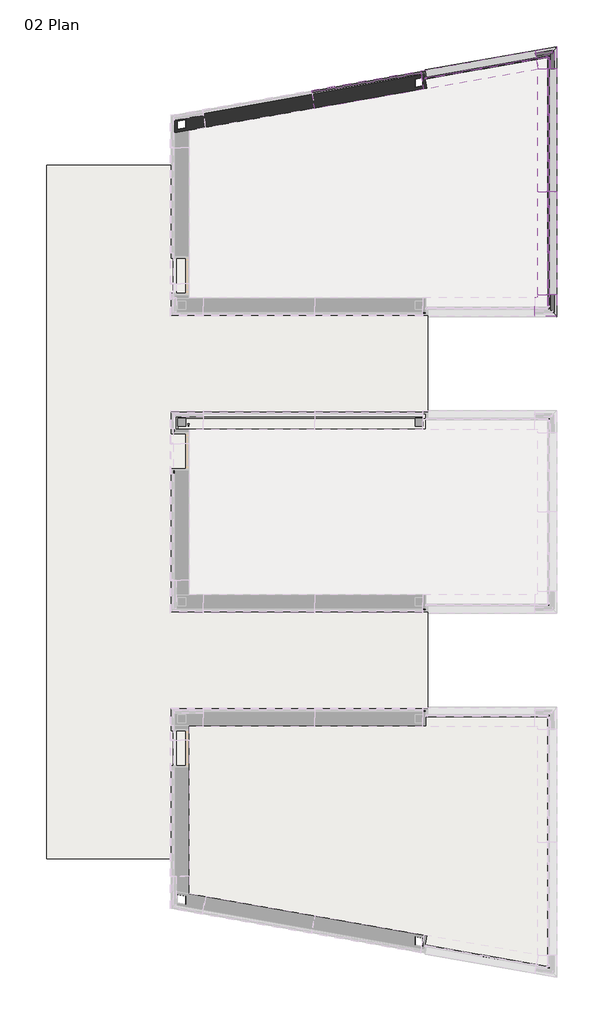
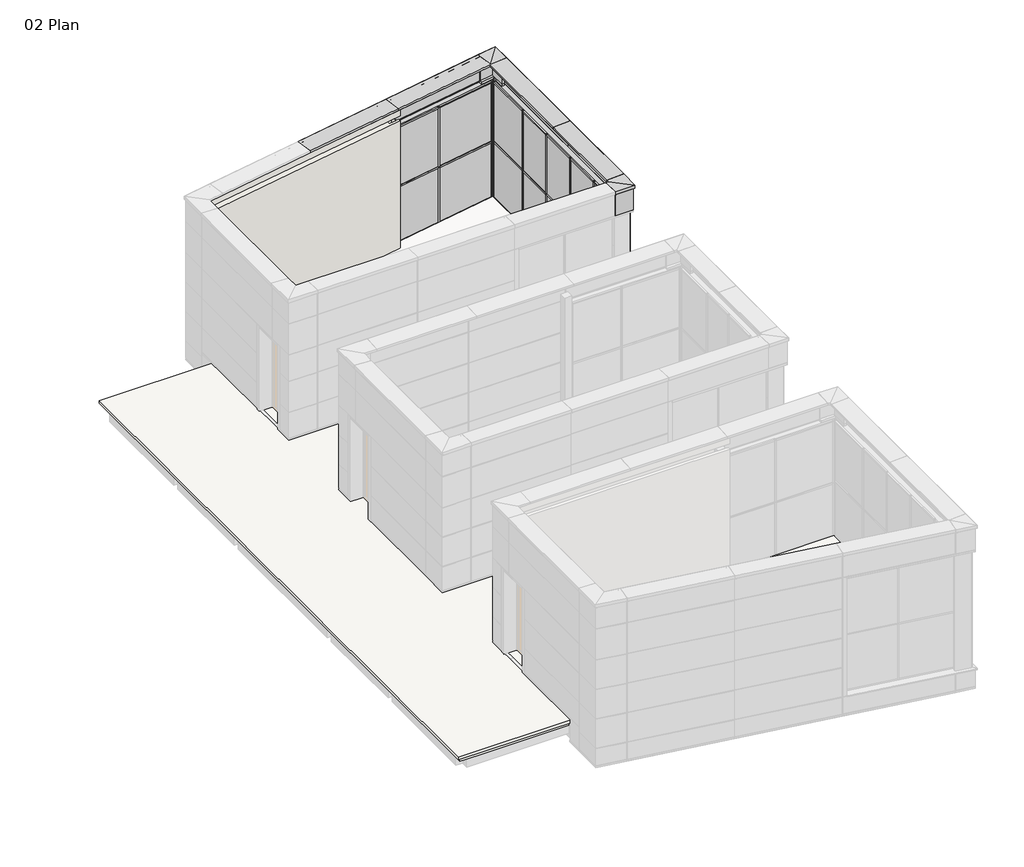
# One storey, part 5 of 6: 40 plates, 36 members, 3 slabs, 1 wall.
"""IFC4 building model written with IfcOpenShell, lengths in millimetres."""

from ifc_helpers import new_model, si_unit, origin, place, context, project, spatial, faceted_brep, transform, mapped, element, save
from components import rectangular_mullion_f6f2cbce, rectangular_mullion_14e84c0c, rectangular_mullion_0d59ba85, rectangular_mullion_ff0ddd38, rectangular_mullion_a9aae7de, rectangular_mullion_1928c3e6, rectangular_mullion_aa7ad885, rectangular_mullion_99b38e0a, rectangular_mullion_a15ee0f8, rectangular_mullion_18d90422, rectangular_mullion_423c9335, rectangular_mullion_82dbb10d, rectangular_mullion_77c6e5ac, rectangular_mullion_c50f3822, rectangular_mullion_eea76750, rectangular_mullion_2e5d74a0, rectangular_mullion_f93325dd, rectangular_mullion_3ef18441, plate_e5f96406, plate_ab3ce5dd, plate_11fb3f57, plate_91b26778, plate_d0c6d3e6, plate_29d679cd, plate_2e54694b, plate_18e4d27f, plate_6c13a71c, plate_abbbe2c7, plate_05e8105e, plate_3b69b3cc, plate_c7e8787b, plate_6bc7ffaa, plate_2372c1a4, plate_de9454b3, empty_system_panel_empty_568ba75f, empty_system_panel_empty_b9b0326a, empty_system_panel_empty_5409ad96, empty_system_panel_empty_42881ea0, empty_system_panel_empty_34ae9014, empty_system_panel_empty_b3b2cc3c, system_panel_d843c5f9, system_panel_27d48a78, system_panel_5d7f3ae3, system_panel_812bae4d, system_panel_4c336963, system_panel_b9692cb7, system_panel_b88e8618, system_panel_5da723c7, system_panel_08dd8473, system_panel_7ef738d5

model = new_model("IFC4")

# Units and contexts
model_context = context("Model", 3, world=origin())
ifc_project = project(units=[si_unit("LENGTHUNIT", "METRE", prefix="MILLI")], contexts=[model_context])

# Site, building, storey
site = spatial("IfcSite", under=ifc_project)
building = spatial("IfcBuilding", under=site)
storey = spatial("IfcBuildingStorey", under=building, Name="02 Plan", Elevation=0.0)

# Members
placement = place(None, origin())
rectangular_mullion_shape = rectangular_mullion_f6f2cbce(model_context)
element("IfcMember", 1, ObjectType="Rectangular Mullion : Mullion_Curtain Wall_Generic Showcase_50x50mm", at=placement, inside=storey, context=model_context, shape_type="MappedRepresentation", body=[
    mapped(rectangular_mullion_shape, transform((8000.6615063, 14550.3829712, -100.0), x_axis=(0.0, 1.0, 0.0), y_axis=(1.0, 0.0, 0.0), z_axis=(0.0, 0.0, -1.0))),
])
element("IfcMember", 2, ObjectType="Rectangular Mullion : Mullion_Curtain Wall_Generic Showcase_50x50mm", at=placement, inside=storey, context=model_context, shape_type="MappedRepresentation", body=[
    mapped(rectangular_mullion_shape, transform((4018.0263241, 13907.7246139, -100.0), x_axis=(-0.9848077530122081, -0.17364817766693, 0.0), y_axis=(-0.17364817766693, 0.9848077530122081, 0.0), z_axis=(0.0, 0.0, -1.0))),
])
element("IfcMember", 3, ObjectType="Rectangular Mullion : Mullion_Curtain Wall_Generic Showcase_50x50mm", at=placement, inside=storey, context=model_context, shape_type="MappedRepresentation", body=[
    mapped(rectangular_mullion_shape, transform((7941.9790974, 14599.6233588, 2075.0), x_axis=(0.9848077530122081, 0.17364817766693, 0.0), y_axis=(-0.17364817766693, 0.9848077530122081, 0.0), z_axis=(0.0, 0.0, 1.0))),
])
rectangular_mullion_2_shape = rectangular_mullion_14e84c0c(model_context)
element("IfcMember", 4, ObjectType="Rectangular Mullion : Mullion_Curtain Wall_Generic Showcase_50x50mm", at=placement, inside=storey, context=model_context, shape_type="MappedRepresentation", body=[
    mapped(rectangular_mullion_2_shape, transform((8000.6615063, 8315.0430135, -100.0), x_axis=(0.0, 1.0, 0.0), y_axis=(1.0, 0.0, 0.0), z_axis=(0.0, 0.0, -1.0))),
])
element("IfcMember", 5, ObjectType="Rectangular Mullion : Mullion_Curtain Wall_Generic Showcase_50x50mm", at=placement, inside=storey, context=model_context, shape_type="MappedRepresentation", body=[
    mapped(rectangular_mullion_2_shape, transform((8000.6615063, 9784.4964835, -100.0), x_axis=(0.0, 1.0, 0.0), y_axis=(1.0, 0.0, 0.0), z_axis=(0.0, 0.0, -1.0))),
])
element("IfcMember", 6, ObjectType="Rectangular Mullion : Mullion_Curtain Wall_Generic Showcase_50x50mm", at=placement, inside=storey, context=model_context, shape_type="MappedRepresentation", body=[
    mapped(rectangular_mullion_2_shape, transform((8000.6615063, 11253.9499534, -100.0), x_axis=(0.0, 1.0, 0.0), y_axis=(1.0, 0.0, 0.0), z_axis=(0.0, 0.0, -1.0))),
])
element("IfcMember", 7, ObjectType="Rectangular Mullion : Mullion_Curtain Wall_Generic Showcase_50x50mm", at=placement, inside=storey, context=model_context, shape_type="MappedRepresentation", body=[
    mapped(rectangular_mullion_2_shape, transform((8000.6615063, 12723.4034234, -100.0), x_axis=(0.0, 1.0, 0.0), y_axis=(1.0, 0.0, 0.0), z_axis=(0.0, 0.0, -1.0))),
])
element("IfcMember", 8, ObjectType="Rectangular Mullion : Mullion_Curtain Wall_Generic Showcase_50x50mm", at=placement, inside=storey, context=model_context, shape_type="MappedRepresentation", body=[
    mapped(rectangular_mullion_2_shape, transform((5803.9554841, 14222.6321104, -100.0), x_axis=(-0.9848077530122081, -0.17364817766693, 0.0), y_axis=(-0.17364817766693, 0.9848077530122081, 0.0), z_axis=(0.0, 0.0, -1.0))),
])
rectangular_mullion_3_shape = rectangular_mullion_0d59ba85(model_context)
element("IfcMember", 9, ObjectType="Rectangular Mullion : Mullion_Curtain Wall_Generic Showcase_50x50mm", at=placement, inside=storey, context=model_context, shape_type="MappedRepresentation", body=[
    mapped(rectangular_mullion_3_shape, transform((4067.2667117, 13916.4070228, 4350.0), x_axis=(0.0, 0.0, 1.0), y_axis=(-0.1736481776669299, 0.9848077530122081, 0.0), z_axis=(-0.9848077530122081, -0.1736481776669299, 0.0))),
])
rectangular_mullion_4_shape = rectangular_mullion_ff0ddd38(model_context)
element("IfcMember", 10, ObjectType="Rectangular Mullion : Mullion_Curtain Wall_Generic Showcase_50x50mm", at=placement, inside=storey, context=model_context, shape_type="MappedRepresentation", body=[
    mapped(rectangular_mullion_4_shape, transform((4067.2667117, 13916.4070228, 2075.0), x_axis=(0.0, 0.0, 1.0), y_axis=(-0.1736481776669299, 0.9848077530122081, 0.0), z_axis=(-0.9848077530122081, -0.1736481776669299, 0.0))),
])
rectangular_mullion_5_shape = rectangular_mullion_a9aae7de(model_context)
element("IfcMember", 11, ObjectType="Rectangular Mullion : Mullion_Curtain Wall_Generic Showcase_50x100mm", at=placement, inside=storey, context=model_context, shape_type="MappedRepresentation", body=[
    mapped(rectangular_mullion_5_shape, transform((5779.3352903, 14218.290906, -100.0), x_axis=(0.0, 0.0, -1.0), y_axis=(-0.1736481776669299, 0.9848077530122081, 0.0), z_axis=(0.9848077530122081, 0.1736481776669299, 0.0))),
])
rectangular_mullion_6_shape = rectangular_mullion_1928c3e6(model_context)
element("IfcMember", 12, ObjectType="Rectangular Mullion : Mullion_Curtain Wall_Generic Showcase_50x100mm", at=placement, inside=storey, context=model_context, shape_type="MappedRepresentation", body=[
    mapped(rectangular_mullion_6_shape, transform((8000.6615063, 8340.0430135, -100.0), x_axis=(0.0, 0.0, -1.0), y_axis=(1.0, 0.0, 0.0), z_axis=(0.0, -1.0, 0.0))),
])
element("IfcMember", 13, ObjectType="Rectangular Mullion : Mullion_Curtain Wall_Generic Showcase_50x100mm", at=placement, inside=storey, context=model_context, shape_type="MappedRepresentation", body=[
    mapped(rectangular_mullion_6_shape, transform((8000.6615063, 9809.4964835, -100.0), x_axis=(0.0, 0.0, -1.0), y_axis=(1.0, 0.0, 0.0), z_axis=(0.0, -1.0, 0.0))),
])
element("IfcMember", 14, ObjectType="Rectangular Mullion : Mullion_Curtain Wall_Generic Showcase_50x100mm", at=placement, inside=storey, context=model_context, shape_type="MappedRepresentation", body=[
    mapped(rectangular_mullion_6_shape, transform((8000.6615063, 11278.9499534, -100.0), x_axis=(0.0, 0.0, -1.0), y_axis=(1.0, 0.0, 0.0), z_axis=(0.0, -1.0, 0.0))),
])
rectangular_mullion_7_shape = rectangular_mullion_aa7ad885(model_context)
element("IfcMember", 15, ObjectType="Rectangular Mullion : Mullion_Curtain Wall_Generic Showcase_50x50mm", at=placement, inside=storey, context=model_context, shape_type="MappedRepresentation", body=[
    mapped(rectangular_mullion_7_shape, transform((8000.6615063, 9759.4964835, 2075.0), x_axis=(0.0, 0.0, 1.0), y_axis=(1.0, 0.0, 0.0), z_axis=(0.0, 1.0, 0.0))),
])
element("IfcMember", 16, ObjectType="Rectangular Mullion : Mullion_Curtain Wall_Generic Showcase_50x50mm", at=placement, inside=storey, context=model_context, shape_type="MappedRepresentation", body=[
    mapped(rectangular_mullion_7_shape, transform((8000.6615063, 11228.9499534, 2075.0), x_axis=(0.0, 0.0, 1.0), y_axis=(1.0, 0.0, 0.0), z_axis=(0.0, 1.0, 0.0))),
])
element("IfcMember", 17, ObjectType="Rectangular Mullion : Mullion_Curtain Wall_Generic Showcase_50x50mm", at=placement, inside=storey, context=model_context, shape_type="MappedRepresentation", body=[
    mapped(rectangular_mullion_7_shape, transform((8000.6615063, 12698.4034234, 2075.0), x_axis=(0.0, 0.0, 1.0), y_axis=(1.0, 0.0, 0.0), z_axis=(0.0, 1.0, 0.0))),
])
rectangular_mullion_8_shape = rectangular_mullion_99b38e0a(model_context)
element("IfcMember", 18, ObjectType="Rectangular Mullion : Mullion_Curtain Wall_Generic Showcase_50x50mm", at=placement, inside=storey, context=model_context, shape_type="MappedRepresentation", body=[
    mapped(rectangular_mullion_8_shape, transform((8000.6615063, 9759.4964835, 4350.0), x_axis=(0.0, 0.0, 1.0), y_axis=(1.0, 0.0, 0.0), z_axis=(0.0, 1.0, 0.0))),
])
element("IfcMember", 19, ObjectType="Rectangular Mullion : Mullion_Curtain Wall_Generic Showcase_50x50mm", at=placement, inside=storey, context=model_context, shape_type="MappedRepresentation", body=[
    mapped(rectangular_mullion_8_shape, transform((8000.6615063, 11228.9499534, 4350.0), x_axis=(0.0, 0.0, 1.0), y_axis=(1.0, 0.0, 0.0), z_axis=(0.0, 1.0, 0.0))),
])
element("IfcMember", 20, ObjectType="Rectangular Mullion : Mullion_Curtain Wall_Generic Showcase_50x50mm", at=placement, inside=storey, context=model_context, shape_type="MappedRepresentation", body=[
    mapped(rectangular_mullion_8_shape, transform((8000.6615063, 12698.4034234, 4350.0), x_axis=(0.0, 0.0, 1.0), y_axis=(1.0, 0.0, 0.0), z_axis=(0.0, 1.0, 0.0))),
])
rectangular_mullion_9_shape = rectangular_mullion_a15ee0f8(model_context)
element("IfcMember", 21, ObjectType="Rectangular Mullion : Mullion_Curtain Wall_Generic Showcase_50x50mm", at=placement, inside=storey, context=model_context, shape_type="MappedRepresentation", body=[
    mapped(rectangular_mullion_9_shape, transform((8000.6615063, 8315.0430135, 2075.0), x_axis=(0.0, 1.0, 0.0), y_axis=(1.0, 0.0, 0.0), z_axis=(0.0, 0.0, -1.0))),
])
element("IfcMember", 22, ObjectType="Rectangular Mullion : Mullion_Curtain Wall_Generic Showcase_50x50mm", at=placement, inside=storey, context=model_context, shape_type="MappedRepresentation", body=[
    mapped(rectangular_mullion_9_shape, transform((8000.6615063, 9784.4964835, 2075.0), x_axis=(0.0, 1.0, 0.0), y_axis=(1.0, 0.0, 0.0), z_axis=(0.0, 0.0, -1.0))),
])
element("IfcMember", 23, ObjectType="Rectangular Mullion : Mullion_Curtain Wall_Generic Showcase_50x50mm", at=placement, inside=storey, context=model_context, shape_type="MappedRepresentation", body=[
    mapped(rectangular_mullion_9_shape, transform((8000.6615063, 11253.9499534, 2075.0), x_axis=(0.0, 1.0, 0.0), y_axis=(1.0, 0.0, 0.0), z_axis=(0.0, 0.0, -1.0))),
])
element("IfcMember", 24, ObjectType="Rectangular Mullion : Mullion_Curtain Wall_Generic Showcase_50x50mm", at=placement, inside=storey, context=model_context, shape_type="MappedRepresentation", body=[
    mapped(rectangular_mullion_9_shape, transform((8000.6615063, 12723.4034234, 2075.0), x_axis=(0.0, 1.0, 0.0), y_axis=(1.0, 0.0, 0.0), z_axis=(0.0, 0.0, -1.0))),
])
element("IfcMember", 25, ObjectType="Rectangular Mullion : Mullion_Curtain Wall_Generic Showcase_50x50mm", at=placement, inside=storey, context=model_context, shape_type="MappedRepresentation", body=[
    mapped(rectangular_mullion_9_shape, transform((5803.9554841, 14222.6321104, 2075.0), x_axis=(-0.9848077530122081, -0.17364817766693, 0.0), y_axis=(-0.17364817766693, 0.9848077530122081, 0.0), z_axis=(0.0, 0.0, -1.0))),
])
rectangular_mullion_10_shape = rectangular_mullion_18d90422(model_context)
element("IfcMember", 26, ObjectType="Rectangular Mullion : Mullion_Curtain Wall_Generic Showcase_50x50mm", at=placement, inside=storey, context=model_context, shape_type="MappedRepresentation", body=[
    mapped(rectangular_mullion_10_shape, transform((7941.9790974, 14599.6233588, 4350.0), x_axis=(0.9848077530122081, 0.17364817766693, 0.0), y_axis=(-0.17364817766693, 0.9848077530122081, 0.0), z_axis=(0.0, 0.0, 1.0))),
])
element("IfcMember", 27, ObjectType="Rectangular Mullion : Mullion_Curtain Wall_Generic Showcase_50x50mm", at=placement, inside=storey, context=model_context, shape_type="MappedRepresentation", body=[
    mapped(rectangular_mullion_10_shape, transform((8000.6615063, 14550.3829712, 2075.0), x_axis=(0.0, 1.0, 0.0), y_axis=(1.0, 0.0, 0.0), z_axis=(0.0, 0.0, -1.0))),
])
element("IfcMember", 28, ObjectType="Rectangular Mullion : Mullion_Curtain Wall_Generic Showcase_50x50mm", at=placement, inside=storey, context=model_context, shape_type="MappedRepresentation", body=[
    mapped(rectangular_mullion_10_shape, transform((4018.0263241, 13907.7246139, 2075.0), x_axis=(-0.9848077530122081, -0.17364817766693, 0.0), y_axis=(-0.17364817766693, 0.9848077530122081, 0.0), z_axis=(0.0, 0.0, -1.0))),
])
rectangular_mullion_11_shape = rectangular_mullion_423c9335(model_context)
element("IfcMember", 29, ObjectType="Rectangular Mullion : Mullion_Curtain Wall_Generic Showcase_50x100mm", at=placement, inside=storey, context=model_context, shape_type="MappedRepresentation", body=[
    mapped(rectangular_mullion_11_shape, transform((7892.7387098, 14590.94095, -100.0), x_axis=(0.0, 0.0, -1.0), y_axis=(-0.17364817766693, 0.9848077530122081, 0.0), z_axis=(0.9848077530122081, 0.17364817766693, 0.0))),
])
rectangular_mullion_12_shape = rectangular_mullion_82dbb10d(model_context)
element("IfcMember", 30, ObjectType="Rectangular Mullion : Mullion_Curtain Wall_Generic Showcase_50x50mm", at=placement, inside=storey, context=model_context, shape_type="MappedRepresentation", body=[
    mapped(rectangular_mullion_12_shape, transform((5828.5756779, 14226.9733149, 2075.0), x_axis=(0.0, 0.0, 1.0), y_axis=(-0.17364817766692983, 0.9848077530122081, 0.0), z_axis=(-0.9848077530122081, -0.17364817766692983, 0.0))),
])
rectangular_mullion_13_shape = rectangular_mullion_77c6e5ac(model_context)
element("IfcMember", 31, ObjectType="Rectangular Mullion : Mullion_Curtain Wall_Generic Showcase_50x50mm", at=placement, inside=storey, context=model_context, shape_type="MappedRepresentation", body=[
    mapped(rectangular_mullion_13_shape, transform((5828.5756779, 14226.9733149, 4350.0), x_axis=(0.0, 0.0, 1.0), y_axis=(-0.17364817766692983, 0.9848077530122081, 0.0), z_axis=(-0.9848077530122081, -0.17364817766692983, 0.0))),
])
rectangular_mullion_14_shape = rectangular_mullion_c50f3822(model_context)
element("IfcMember", 32, ObjectType="Rectangular Mullion : Mullion_Curtain Wall_Generic Showcase_50x50mm", at=placement, inside=storey, context=model_context, shape_type="MappedRepresentation", body=[
    mapped(rectangular_mullion_14_shape, transform((8000.6615063, 14500.3829712, 4350.0), x_axis=(0.0, 0.0, 1.0), y_axis=(1.0, 0.0, 0.0), z_axis=(0.0, 1.0, 0.0))),
])
rectangular_mullion_15_shape = rectangular_mullion_eea76750(model_context)
element("IfcMember", 33, ObjectType="Rectangular Mullion : Mullion_Curtain Wall_Generic Showcase_50x100mm", at=placement, inside=storey, context=model_context, shape_type="MappedRepresentation", body=[
    mapped(rectangular_mullion_15_shape, transform((8000.6615063, 12748.4034234, -100.0), x_axis=(0.0, 0.0, -1.0), y_axis=(1.0, 0.0, 0.0), z_axis=(0.0, -1.0, 0.0))),
])
rectangular_mullion_16_shape = rectangular_mullion_2e5d74a0(model_context)
element("IfcMember", 34, ObjectType="Rectangular Mullion : Mullion_Curtain Wall_Generic Showcase_50x50mm", at=placement, inside=storey, context=model_context, shape_type="MappedRepresentation", body=[
    mapped(rectangular_mullion_16_shape, transform((8000.6615063, 14500.3829712, 2075.0), x_axis=(0.0, 0.0, 1.0), y_axis=(1.0, 0.0, 0.0), z_axis=(0.0, 1.0, 0.0))),
])
rectangular_mullion_17_shape = rectangular_mullion_f93325dd(model_context)
element("IfcMember", 35, ObjectType="Rectangular Mullion : Mullion_Curtain Wall_Generic Showcase_50x50mm", at=placement, inside=storey, context=model_context, shape_type="MappedRepresentation", body=[
    mapped(rectangular_mullion_17_shape, transform((8000.6615063, 8290.0430135, 2075.0), x_axis=(0.0, 0.0, 1.0), y_axis=(1.0, 0.0, 0.0), z_axis=(0.0, 1.0, 0.0))),
])
rectangular_mullion_18_shape = rectangular_mullion_3ef18441(model_context)
element("IfcMember", 36, ObjectType="Rectangular Mullion : Mullion_Curtain Wall_Generic Showcase_50x50mm", at=placement, inside=storey, context=model_context, shape_type="MappedRepresentation", body=[
    mapped(rectangular_mullion_18_shape, transform((8000.6615063, 8290.0430135, 4350.0), x_axis=(0.0, 0.0, 1.0), y_axis=(1.0, 0.0, 0.0), z_axis=(0.0, 1.0, 0.0))),
])

# Plates
plate_shape = plate_e5f96406(model_context)
element("IfcPlate", 37, ObjectType="Trimo_Qbiss Screen_L Corner Panel-HORIZONTAL : HR - B", at=placement, inside=storey, context=model_context, shape_type="MappedRepresentation", body=[
    mapped(plate_shape, transform((7833.126347, 14681.9723432, -750.0), x_axis=(0.9848077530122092, 0.17364817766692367, 0.0), y_axis=(-0.17364817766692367, 0.9848077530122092, 0.0), z_axis=(0.0, 0.0, 1.0))),
])
plate_2_shape = plate_ab3ce5dd(model_context)
element("IfcPlate", 38, ObjectType="Trimo_Qbiss Screen_L Corner Panel-HORIZONTAL : HR - B", at=placement, inside=storey, context=model_context, shape_type="MappedRepresentation", body=[
    mapped(plate_2_shape, transform((7833.126347, 14681.9723432, 4410.0), x_axis=(0.9848077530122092, 0.17364817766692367, 0.0), y_axis=(-0.17364817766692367, 0.9848077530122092, 0.0), z_axis=(0.0, 0.0, 1.0))),
])
plate_3_shape = plate_11fb3f57(model_context)
element("IfcPlate", 39, ObjectType="Trimo_Qbiss Screen_L Corner Panel-HORIZONTAL : HR - B", at=placement, inside=storey, context=model_context, shape_type="MappedRepresentation", body=[
    mapped(plate_3_shape, transform((8100.6615063, 6676.8395435, 4410.0), x_axis=(0.0, -1.0, 0.0), y_axis=(1.0, 0.0, 0.0), z_axis=(0.0, 0.0, 1.0))),
])
plate_4_shape = plate_91b26778(model_context)
element("IfcPlate", 40, ObjectType="Trimo_Qbiss Screen_L Corner Panel-HORIZONTAL : HR - B", at=placement, inside=storey, context=model_context, shape_type="MappedRepresentation", body=[
    mapped(plate_4_shape, transform((8100.6615063, 6676.8395435, -750.0), x_axis=(0.0, -1.0, 0.0), y_axis=(1.0, 0.0, 0.0), z_axis=(0.0, 0.0, 1.0))),
])
plate_5_shape = plate_d0c6d3e6(model_context)
element("IfcPlate", 41, ObjectType="Trimo_Qbiss Screen_Normal Panel-HORIZONTAL : HR - B", at=placement, inside=storey, context=model_context, shape_type="MappedRepresentation", body=[
    mapped(plate_5_shape, transform((5735.116969, 14312.0366841, -750.0), x_axis=(0.9848077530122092, 0.17364817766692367, 0.0), y_axis=(-0.17364817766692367, 0.9848077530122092, 0.0), z_axis=(0.0, 0.0, 1.0))),
])
plate_6_shape = plate_29d679cd(model_context)
element("IfcPlate", 42, ObjectType="Trimo_Qbiss Screen_Normal Panel-HORIZONTAL : HR - B", at=placement, inside=storey, context=model_context, shape_type="MappedRepresentation", body=[
    mapped(plate_6_shape, transform((2157.2681063, 13681.1653967, -750.0), x_axis=(0.9848077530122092, 0.17364817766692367, 0.0), y_axis=(-0.17364817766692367, 0.9848077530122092, 0.0), z_axis=(0.0, 0.0, 1.0))),
])
plate_7_shape = plate_2e54694b(model_context)
element("IfcPlate", 43, ObjectType="Trimo_Qbiss Screen_Normal Panel-HORIZONTAL : HR - B", at=placement, inside=storey, context=model_context, shape_type="MappedRepresentation", body=[
    mapped(plate_7_shape, transform((2157.2681063, 13681.1653967, -100.0), x_axis=(0.9848077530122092, 0.17364817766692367, 0.0), y_axis=(-0.17364817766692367, 0.9848077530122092, 0.0), z_axis=(0.0, 0.0, 1.0))),
])
element("IfcPlate", 44, ObjectType="Trimo_Qbiss Screen_Normal Panel-HORIZONTAL : HR - B", at=placement, inside=storey, context=model_context, shape_type="MappedRepresentation", body=[
    mapped(plate_7_shape, transform((2157.2681063, 13681.1653967, 1012.5), x_axis=(0.9848077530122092, 0.17364817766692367, 0.0), y_axis=(-0.17364817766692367, 0.9848077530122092, 0.0), z_axis=(0.0, 0.0, 1.0))),
])
element("IfcPlate", 45, ObjectType="Trimo_Qbiss Screen_Normal Panel-HORIZONTAL : HR - B", at=placement, inside=storey, context=model_context, shape_type="MappedRepresentation", body=[
    mapped(plate_7_shape, transform((2157.2681063, 13681.1653967, 2125.0), x_axis=(0.9848077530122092, 0.17364817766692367, 0.0), y_axis=(-0.17364817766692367, 0.9848077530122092, 0.0), z_axis=(0.0, 0.0, 1.0))),
])
plate_8_shape = plate_18e4d27f(model_context)
element("IfcPlate", 46, ObjectType="Trimo_Qbiss Screen_Normal Panel-HORIZONTAL : HR - B", at=placement, inside=storey, context=model_context, shape_type="MappedRepresentation", body=[
    mapped(plate_8_shape, transform((2157.2681063, 13681.1653967, 4410.0), x_axis=(0.9848077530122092, 0.17364817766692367, 0.0), y_axis=(-0.17364817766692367, 0.9848077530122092, 0.0), z_axis=(0.0, 0.0, 1.0))),
])
plate_9_shape = plate_6c13a71c(model_context)
element("IfcPlate", 47, ObjectType="Trimo_Qbiss Screen_Normal Panel-HORIZONTAL : HR - B", at=placement, inside=storey, context=model_context, shape_type="MappedRepresentation", body=[
    mapped(plate_9_shape, transform((5735.116969, 14312.0366841, 4410.0), x_axis=(0.9848077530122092, 0.17364817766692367, 0.0), y_axis=(-0.17364817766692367, 0.9848077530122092, 0.0), z_axis=(0.0, 0.0, 1.0))),
])
plate_10_shape = plate_abbbe2c7(model_context)
element("IfcPlate", 48, ObjectType="Trimo_Qbiss Screen_Normal Panel-HORIZONTAL : HR - B", at=placement, inside=storey, context=model_context, shape_type="MappedRepresentation", body=[
    mapped(plate_10_shape, transform((2157.2681063, 13681.1653967, 3237.5), x_axis=(0.9848077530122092, 0.17364817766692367, 0.0), y_axis=(-0.17364817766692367, 0.9848077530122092, 0.0), z_axis=(0.0, 0.0, 1.0))),
])
plate_11_shape = plate_05e8105e(model_context)
element("IfcPlate", 49, ObjectType="Trimo_Qbiss Screen_Normal Panel-HORIZONTAL : HR - B", at=placement, inside=storey, context=model_context, shape_type="MappedRepresentation", body=[
    mapped(plate_11_shape, transform((8100.6615063, 12221.9554564, -750.0), x_axis=(0.0, -1.0, 0.0), y_axis=(1.0, 0.0, 0.0), z_axis=(0.0, 0.0, 1.0))),
])
plate_12_shape = plate_3b69b3cc(model_context)
element("IfcPlate", 50, ObjectType="Trimo_Qbiss Screen_Normal Panel-HORIZONTAL : HR - B", at=placement, inside=storey, context=model_context, shape_type="MappedRepresentation", body=[
    mapped(plate_12_shape, transform((8100.6615063, 12221.9554564, 4410.0), x_axis=(0.0, -1.0, 0.0), y_axis=(1.0, 0.0, 0.0), z_axis=(0.0, 0.0, 1.0))),
])
plate_13_shape = plate_c7e8787b(model_context)
element("IfcPlate", 51, ObjectType="Trimo_Qbiss Screen_Normal Panel-HORIZONTAL : HR - B", at=placement, inside=storey, context=model_context, shape_type="MappedRepresentation", body=[
    mapped(plate_13_shape, transform((8100.6615063, 8608.0895435, -750.0), x_axis=(0.0, -1.0, 0.0), y_axis=(1.0, 0.0, 0.0), z_axis=(0.0, 0.0, 1.0))),
])
plate_14_shape = plate_6bc7ffaa(model_context)
element("IfcPlate", 52, ObjectType="Trimo_Qbiss Screen_Normal Panel-HORIZONTAL : HR - B", at=placement, inside=storey, context=model_context, shape_type="MappedRepresentation", body=[
    mapped(plate_14_shape, transform((8100.6615063, 8608.0895435, 4410.0), x_axis=(0.0, -1.0, 0.0), y_axis=(1.0, 0.0, 0.0), z_axis=(0.0, 0.0, 1.0))),
])
plate_15_shape = plate_2372c1a4(model_context)
element("IfcPlate", 53, ObjectType="Trimo_Qbiss Screen_Wall Opening Trims-HORIZONTAL : HR - B", at=placement, inside=storey, context=model_context, shape_type="MappedRepresentation", body=[
    mapped(plate_15_shape, transform((5735.116969, 14312.0366841, -100.0), x_axis=(0.9848077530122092, 0.17364817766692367, 0.0), y_axis=(-0.17364817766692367, 0.9848077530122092, 0.0), z_axis=(0.0, 0.0, 1.0))),
])
plate_16_shape = plate_de9454b3(model_context)
element("IfcPlate", 54, ObjectType="Trimo_Qbiss Screen_Wall Opening Trims-HORIZONTAL : HR - B", at=placement, inside=storey, context=model_context, shape_type="MappedRepresentation", body=[
    mapped(plate_16_shape, transform((8100.6615063, 10571.9554564, -100.0), x_axis=(0.0, -1.0, 0.0), y_axis=(1.0, 0.0, 0.0), z_axis=(0.0, 0.0, 1.0))),
])
empty_system_panel_empty_shape = empty_system_panel_empty_568ba75f(model_context)
element("IfcPlate", 55, ObjectType="Empty System Panel : Empty", at=placement, inside=storey, context=model_context, shape_type="MappedRepresentation", body=[
    mapped(empty_system_panel_empty_shape, transform((8100.6615063, 14457.4836897, -750.0), x_axis=(0.0, -1.0, 0.0), y_axis=(1.0, 0.0, 0.0), z_axis=(0.0, 0.0, 1.0))),
])
empty_system_panel_empty_2_shape = empty_system_panel_empty_b9b0326a(model_context)
element("IfcPlate", 56, ObjectType="Empty System Panel : Empty", at=placement, inside=storey, context=model_context, shape_type="MappedRepresentation", body=[
    mapped(empty_system_panel_empty_2_shape, transform((8100.6615063, 6676.8395435, -100.0), x_axis=(0.0, -1.0, 0.0), y_axis=(1.0, 0.0, 0.0), z_axis=(0.0, 0.0, 1.0))),
])
empty_system_panel_empty_3_shape = empty_system_panel_empty_5409ad96(model_context)
element("IfcPlate", 57, ObjectType="Empty System Panel : Empty", at=placement, inside=storey, context=model_context, shape_type="MappedRepresentation", body=[
    mapped(empty_system_panel_empty_3_shape, transform((8100.6615063, 14457.4836897, -100.0), x_axis=(0.0, -1.0, 0.0), y_axis=(1.0, 0.0, 0.0), z_axis=(0.0, 0.0, 1.0))),
])
empty_system_panel_empty_4_shape = empty_system_panel_empty_42881ea0(model_context)
element("IfcPlate", 58, ObjectType="Empty System Panel : Empty", at=placement, inside=storey, context=model_context, shape_type="MappedRepresentation", body=[
    mapped(empty_system_panel_empty_4_shape, transform((8100.6615063, 14457.4836897, 4410.0), x_axis=(0.0, -1.0, 0.0), y_axis=(1.0, 0.0, 0.0), z_axis=(0.0, 0.0, 1.0))),
])
empty_system_panel_empty_5_shape = empty_system_panel_empty_34ae9014(model_context)
element("IfcPlate", 59, ObjectType="Empty System Panel : Empty", at=placement, inside=storey, context=model_context, shape_type="MappedRepresentation", body=[
    mapped(empty_system_panel_empty_5_shape, transform((7833.126347, 14681.9723432, -100.0), x_axis=(0.9848077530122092, 0.17364817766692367, 0.0), y_axis=(-0.17364817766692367, 0.9848077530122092, 0.0), z_axis=(0.0, 0.0, 1.0))),
])
element("IfcPlate", 60, ObjectType="Empty System Panel : Empty", at=placement, inside=storey, context=model_context, shape_type="MappedRepresentation", body=[
    mapped(empty_system_panel_empty_5_shape, transform((7833.126347, 14681.9723432, 2125.0), x_axis=(0.9848077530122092, 0.17364817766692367, 0.0), y_axis=(-0.17364817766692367, 0.9848077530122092, 0.0), z_axis=(0.0, 0.0, 1.0))),
])
element("IfcPlate", 61, ObjectType="Empty System Panel : Empty", at=placement, inside=storey, context=model_context, shape_type="MappedRepresentation", body=[
    mapped(empty_system_panel_empty_5_shape, transform((7833.126347, 14681.9723432, 1012.5), x_axis=(0.9848077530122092, 0.17364817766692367, 0.0), y_axis=(-0.17364817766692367, 0.9848077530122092, 0.0), z_axis=(0.0, 0.0, 1.0))),
])
empty_system_panel_empty_6_shape = empty_system_panel_empty_b3b2cc3c(model_context)
element("IfcPlate", 62, ObjectType="Empty System Panel : Empty", at=placement, inside=storey, context=model_context, shape_type="MappedRepresentation", body=[
    mapped(empty_system_panel_empty_6_shape, transform((7833.126347, 14681.9723432, 3237.5), x_axis=(0.9848077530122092, 0.17364817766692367, 0.0), y_axis=(-0.17364817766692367, 0.9848077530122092, 0.0), z_axis=(0.0, 0.0, 1.0))),
])
system_panel_shape = system_panel_d843c5f9(model_context)
element("IfcPlate", 63, ObjectType="System Panel : Panel_Glazed_Generic Showcase_30mm", at=placement, inside=storey, context=model_context, shape_type="MappedRepresentation", body=[
    mapped(system_panel_shape, transform((4923.301001, 14067.3489644, 0.0), x_axis=(-0.9848077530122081, -0.17364817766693, 0.0), y_axis=(0.17364817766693, -0.9848077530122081, 0.0), z_axis=(0.0, 0.0, 1.0))),
])
system_panel_2_shape = system_panel_27d48a78(model_context)
element("IfcPlate", 64, ObjectType="System Panel : Panel_Glazed_Generic Showcase_30mm", at=placement, inside=storey, context=model_context, shape_type="MappedRepresentation", body=[
    mapped(system_panel_2_shape, transform((8000.6615063, 9049.7697485, 0.0), x_axis=(0.0, 1.0, 0.0), y_axis=(-1.0, 0.0, 0.0), z_axis=(0.0, 0.0, 1.0))),
])
element("IfcPlate", 65, ObjectType="System Panel : Panel_Glazed_Generic Showcase_30mm", at=placement, inside=storey, context=model_context, shape_type="MappedRepresentation", body=[
    mapped(system_panel_2_shape, transform((8000.6615063, 10519.2232185, 0.0), x_axis=(0.0, 1.0, 0.0), y_axis=(-1.0, 0.0, 0.0), z_axis=(0.0, 0.0, 1.0))),
])
element("IfcPlate", 66, ObjectType="System Panel : Panel_Glazed_Generic Showcase_30mm", at=placement, inside=storey, context=model_context, shape_type="MappedRepresentation", body=[
    mapped(system_panel_2_shape, transform((8000.6615063, 11988.6766884, 0.0), x_axis=(0.0, 1.0, 0.0), y_axis=(-1.0, 0.0, 0.0), z_axis=(0.0, 0.0, 1.0))),
])
system_panel_3_shape = system_panel_5d7f3ae3(model_context)
element("IfcPlate", 67, ObjectType="System Panel : Panel_Glazed_Generic Showcase_30mm", at=placement, inside=storey, context=model_context, shape_type="MappedRepresentation", body=[
    mapped(system_panel_3_shape, transform((8000.6615063, 9049.7697485, 2100.0), x_axis=(0.0, 1.0, 0.0), y_axis=(-1.0, 0.0, 0.0), z_axis=(0.0, 0.0, 1.0))),
])
element("IfcPlate", 68, ObjectType="System Panel : Panel_Glazed_Generic Showcase_30mm", at=placement, inside=storey, context=model_context, shape_type="MappedRepresentation", body=[
    mapped(system_panel_3_shape, transform((8000.6615063, 10519.2232185, 2100.0), x_axis=(0.0, 1.0, 0.0), y_axis=(-1.0, 0.0, 0.0), z_axis=(0.0, 0.0, 1.0))),
])
element("IfcPlate", 69, ObjectType="System Panel : Panel_Glazed_Generic Showcase_30mm", at=placement, inside=storey, context=model_context, shape_type="MappedRepresentation", body=[
    mapped(system_panel_3_shape, transform((8000.6615063, 11988.6766884, 2100.0), x_axis=(0.0, 1.0, 0.0), y_axis=(-1.0, 0.0, 0.0), z_axis=(0.0, 0.0, 1.0))),
])
system_panel_4_shape = system_panel_812bae4d(model_context)
element("IfcPlate", 70, ObjectType="System Panel : Panel_Glazed_Generic Showcase_30mm", at=placement, inside=storey, context=model_context, shape_type="MappedRepresentation", body=[
    mapped(system_panel_4_shape, transform((4923.301001, 14067.3489644, 2100.0), x_axis=(-0.9848077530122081, -0.17364817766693, 0.0), y_axis=(0.17364817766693, -0.9848077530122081, 0.0), z_axis=(0.0, 0.0, 1.0))),
])
system_panel_5_shape = system_panel_4c336963(model_context)
element("IfcPlate", 71, ObjectType="System Panel : Panel_Glazed_Generic Showcase_30mm", at=placement, inside=storey, context=model_context, shape_type="MappedRepresentation", body=[
    mapped(system_panel_5_shape, transform((6860.6571938, 14408.9571324, 0.0), x_axis=(-0.9848077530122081, -0.17364817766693, 0.0), y_axis=(0.17364817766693, -0.9848077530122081, 0.0), z_axis=(0.0, 0.0, 1.0))),
])
system_panel_6_shape = system_panel_b9692cb7(model_context)
element("IfcPlate", 72, ObjectType="System Panel : Panel_Glazed_Generic Showcase_30mm", at=placement, inside=storey, context=model_context, shape_type="MappedRepresentation", body=[
    mapped(system_panel_6_shape, transform((6860.6571938, 14408.9571324, 2100.0), x_axis=(-0.9848077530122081, -0.17364817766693, 0.0), y_axis=(0.17364817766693, -0.9848077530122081, 0.0), z_axis=(0.0, 0.0, 1.0))),
])
system_panel_7_shape = system_panel_b88e8618(model_context)
element("IfcPlate", 73, ObjectType="System Panel : Panel_Glazed_Generic Showcase_30mm", at=placement, inside=storey, context=model_context, shape_type="MappedRepresentation", body=[
    mapped(system_panel_7_shape, transform((8000.6615063, 13624.3931973, 0.0), x_axis=(0.0, 1.0, 0.0), y_axis=(-1.0, 0.0, 0.0), z_axis=(0.0, 0.0, 1.0))),
])
system_panel_8_shape = system_panel_5da723c7(model_context)
element("IfcPlate", 74, ObjectType="System Panel : Panel_Glazed_Generic Showcase_30mm", at=placement, inside=storey, context=model_context, shape_type="MappedRepresentation", body=[
    mapped(system_panel_8_shape, transform((8000.6615063, 13624.3931973, 2100.0), x_axis=(0.0, 1.0, 0.0), y_axis=(-1.0, 0.0, 0.0), z_axis=(0.0, 0.0, 1.0))),
])
system_panel_9_shape = system_panel_08dd8473(model_context)
element("IfcPlate", 75, ObjectType="System Panel : Panel_Glazed_Generic Showcase_30mm", at=placement, inside=storey, context=model_context, shape_type="MappedRepresentation", body=[
    mapped(system_panel_9_shape, transform((8000.6615063, 7442.8162785, 0.0), x_axis=(0.0, 1.0, 0.0), y_axis=(-1.0, 0.0, 0.0), z_axis=(0.0, 0.0, 1.0))),
])
system_panel_10_shape = system_panel_7ef738d5(model_context)
element("IfcPlate", 76, ObjectType="System Panel : Panel_Glazed_Generic Showcase_30mm", at=placement, inside=storey, context=model_context, shape_type="MappedRepresentation", body=[
    mapped(system_panel_10_shape, transform((8000.6615063, 7442.8162785, 2100.0), x_axis=(0.0, 1.0, 0.0), y_axis=(-1.0, 0.0, 0.0), z_axis=(0.0, 0.0, 1.0))),
])

# Slabs
element("IfcSlab", 77, ObjectType="Floor_Structural_Generic Showcase_200mm", at=placement, inside=storey, context=model_context, shape_type="Brep", body=[
    faceted_brep([(8000.6615063, 14609.9706508, -300.0), (8000.6615063, 14356.1139978, -300.0), (8000.6615063, 6745.5895435, -300.0), (8000.6615063, 6495.5895435, -300.0), (3950.6615063, 6495.5895435, -300.0), (3950.6615063, 3095.5895435, -300.0), (3950.6615063, 2995.5895435, -300.0), (8000.6615063, 2995.5895435, -300.0), (8000.6615063, 2745.5895435, -300.0), (8000.6615063, -2754.4104565, -300.0), (8000.6615063, -3004.4104565, -300.0), (3950.6615063, -3004.4104565, -300.0), (3950.6615063, -6504.4104565, -300.0), (8000.6615063, -6504.4104565, -300.0), (8000.6615063, -6754.4104565, -300.0), (8000.6615063, -14574.7098186, -300.0), (8000.6615063, -14618.7915638, -300.0), (7750.6615063, -14574.7098186, -300.0), (3963.1685648, -13906.8726238, -300.0), (3950.6615063, -13904.6672919, -300.0), (3950.6615063, -13650.810639, -300.0), (3700.6615063, -13606.7288938, -300.0), (3700.6615063, -13860.5855468, -300.0), (-3549.3384937, -12582.2149366, -300.0), (-3649.3384937, -12564.5822386, -300.0), (-3649.3384937, -12310.7255856, -300.0), (-3899.3384937, -12266.6438404, -300.0), (-3899.3384937, -12253.9438404, -300.0), (-3899.3384937, -11054.4104565, -300.0), (-3899.3384937, -10954.4104565, -300.0), (-7699.3384937, -10954.4104565, -300.0), (-7949.3384937, -10954.4104565, -300.0), (-7949.3384937, -10704.4104565, -300.0), (-7949.3384937, -6754.4104565, -300.0), (-7949.3384937, -6504.4104565, -300.0), (-7949.3384937, -3004.4104565, -300.0), (-7949.3384937, -2754.4104565, -300.0), (-7949.3384937, 2745.5895435, -300.0), (-7949.3384937, 2995.5895435, -300.0), (-7949.3384937, 6495.5895435, -300.0), (-7949.3384937, 6745.5895435, -300.0), (-7949.3384937, 10695.5895435, -300.0), (-7949.3384937, 10945.5895435, -300.0), (-7699.3384937, 10945.5895435, -300.0), (-3899.3384937, 10945.5895435, -300.0), (-3899.3384937, 12245.1229274, -300.0), (-3899.3384937, 12257.8229274, -300.0), (-3649.3384937, 12301.9046726, -300.0), (-3649.3384937, 12555.7613256, -300.0), (-3549.3384937, 12573.3940236, -300.0), (3700.6615063, 13851.7646338, -300.0), (3700.6615063, 13597.9079808, -300.0), (3950.6615063, 13641.989726, -300.0), (3950.6615063, 13895.8463789, -300.0), (3963.1685648, 13898.0517108, -300.0), (7957.2494619, 14602.3159361, -300.0), (8000.6615063, 6495.5895435, -100.0), (8000.6615063, 14254.5713367, -100.0), (8000.6615063, 14609.9706508, -100.0), (3950.6615063, 13895.8463789, -100.0), (3950.6615063, 13641.989726, -100.0), (3700.6615063, 13597.9079808, -100.0), (3700.6615063, 13851.7646338, -100.0), (-3549.3384937, 12573.3940236, -100.0), (-3649.3384937, 12555.7613256, -100.0), (-3649.3384937, 12301.9046726, -100.0), (-3899.3384937, 12257.8229274, -100.0), (-3899.3384937, 12156.2802662, -100.0), (-3899.3384937, 11045.5895435, -100.0), (-3899.3384937, 10945.5895435, -100.0), (-3999.3384937, 10945.5895435, -100.0), (-7949.3384937, 10945.5895435, -100.0), (-7949.3384937, 10595.5895435, -100.0), (-7949.3384937, -10604.4104565, -100.0), (-7949.3384937, -10954.4104565, -100.0), (-3899.3384937, -10954.4104565, -100.0), (-3899.3384937, -11054.4104565, -100.0), (-3899.3384937, -12165.1011792, -100.0), (-3899.3384937, -12266.6438404, -100.0), (-3649.3384937, -12310.7255856, -100.0), (-3649.3384937, -12564.5822386, -100.0), (-3549.3384937, -12582.2149366, -100.0), (3700.6615063, -13860.5855468, -100.0), (3700.6615063, -13606.7288938, -100.0), (3950.6615063, -13650.810639, -100.0), (3950.6615063, -13904.6672919, -100.0), (7650.6615063, -14557.0771206, -100.0), (8000.6615063, -14618.7915638, -100.0), (8000.6615063, -6504.4104565, -100.0), (7650.6615063, -6504.4104565, -100.0), (4050.6615063, -6504.4104565, -100.0), (3950.6615063, -6504.4104565, -100.0), (3950.6615063, -3004.4104565, -100.0), (4050.6615063, -3004.4104565, -100.0), (7650.6615063, -3004.4104565, -100.0), (8000.6615063, -3004.4104565, -100.0), (8000.6615063, 2995.5895435, -100.0), (7650.6615063, 2995.5895435, -100.0), (4050.6615063, 2995.5895435, -100.0), (3950.6615063, 2995.5895435, -100.0), (3950.6615063, 3095.5895435, -100.0), (3950.6615063, 6395.5895435, -100.0), (3950.6615063, 6495.5895435, -100.0), (4050.6615063, 6495.5895435, -100.0), (7650.6615063, 6495.5895435, -100.0)], [[[0, 1, 2, 3, 4, 5, 6, 7, 8, 9, 10, 11, 12, 13, 14, 15, 16, 17, 18, 19, 20, 21, 22, 23, 24, 25, 26, 27, 28, 29, 30, 31, 32, 33, 34, 35, 36, 37, 38, 39, 40, 41, 42, 43, 44, 45, 46, 47, 48, 49, 50, 51, 52, 53, 54, 55]], [[56, 57, 58, 59, 60, 61, 62, 63, 64, 65, 66, 67, 68, 69, 70, 71, 72, 73, 74, 75, 76, 77, 78, 79, 80, 81, 82, 83, 84, 85, 86, 87, 88, 89, 90, 91, 92, 93, 94, 95, 96, 97, 98, 99, 100, 101, 102, 103, 104]], [[3, 2, 1, 0, 58, 57, 56]], [[4, 3, 56, 104, 103, 102]], [[6, 5, 4, 102, 101, 100, 99]], [[7, 6, 99, 98, 97, 96]], [[10, 9, 8, 7, 96, 95]], [[11, 10, 95, 94, 93, 92]], [[12, 11, 92, 91]], [[13, 12, 91, 90, 89, 88]], [[16, 15, 14, 13, 88, 87]], [[16, 87, 86, 85, 19, 18, 17]], [[24, 23, 22, 82, 81, 80]], [[75, 29, 28, 27, 26, 78, 77, 76]], [[31, 30, 29, 75, 74]], [[42, 41, 40, 39, 38, 37, 36, 35, 34, 33, 32, 31, 74, 73, 72, 71]], [[44, 43, 42, 71, 70, 69]], [[44, 69, 68, 67, 66, 46, 45]], [[58, 0, 55, 54, 53, 59]], [[50, 49, 48, 64, 63, 62]], [[65, 47, 46, 66]], [[47, 65, 64, 48]], [[61, 51, 50, 62]], [[51, 61, 60, 52]], [[52, 60, 59, 53]], [[25, 79, 78, 26]], [[79, 25, 24, 80]], [[21, 83, 82, 22]], [[83, 21, 20, 84]], [[84, 20, 19, 85]]]),
])
element("IfcSlab", 78, ObjectType="Floor_Layers_Generic Showcase_100mm", at=placement, inside=storey, context=model_context, shape_type="Brep", body=[
    faceted_brep([(4050.6615063, -6854.4104565, -100.0), (4050.6615063, -6554.4104565, -100.0), (7950.6615063, -6554.4104565, -100.0), (7950.6615063, -14559.2038842, -100.0), (4026.708733, -13867.3051392, -100.0), (4078.8031863, -13571.8628133, -100.0), (-3549.3384937, -12226.8156225, -100.0), (-3549.3384937, -8174.4104565, -100.0), (-3549.3384937, -6954.4104565, -100.0), (-3549.3384937, -6854.4104565, -100.0), (3600.6615063, -6854.4104565, -100.0), (4050.6615063, -6854.4104565, 0.0), (3950.6615063, -6854.4104565, 0.0), (3600.6615063, -6854.4104565, 0.0), (-3549.3384937, -6854.4104565, 0.0), (-3549.3384937, -12226.8156225, 0.0), (4078.8031863, -13571.8628133, 0.0), (4026.708733, -13867.3051392, 0.0), (7950.6615063, -14559.2038842, 0.0), (7950.6615063, -6554.4104565, 0.0), (4050.6615063, -6554.4104565, 0.0)], [[[0, 1, 2, 3, 4, 5, 6, 7, 8, 9, 10]], [[11, 12, 13, 14, 15, 16, 17, 18, 19, 20]], [[1, 0, 11, 20]], [[2, 1, 20, 19]], [[3, 2, 19, 18]], [[4, 3, 18, 17]], [[5, 4, 17, 16]], [[6, 5, 16, 15]], [[9, 8, 7, 6, 15, 14]], [[0, 10, 9, 14, 13, 12, 11]]]),
])
element("IfcSlab", 79, ObjectType="Floor_Layers_Generic Showcase_100mm", at=placement, inside=storey, context=model_context, shape_type="Brep", body=[
    faceted_brep([(-3899.3384937, 11095.5895435, -100.0), (-3899.3384937, 8165.5895435, -100.0), (-3549.3384937, 8165.5895435, -100.0), (-3549.3384937, 6945.5895435, -100.0), (-3899.3384937, 6945.5895435, -100.0), (-3899.3384937, 6845.5895435, -100.0), (-3899.3384937, 6745.5895435, -100.0), (-3899.3384937, 6495.5895435, -100.0), (-3649.3384937, 6495.5895435, -100.0), (3600.6615063, 6495.5895435, -100.0), (3950.6615063, 6495.5895435, -100.0), (4050.6615063, 6495.5895435, -100.0), (4100.6615063, 6495.5895435, -100.0), (4100.6615063, 2995.5895435, -100.0), (4050.6615063, 2995.5895435, -100.0), (3600.6615063, 2995.5895435, -100.0), (-3649.3384937, 2995.5895435, -100.0), (-3899.3384937, 2995.5895435, -100.0), (-3899.3384937, 2745.5895435, -100.0), (-3899.3384937, 2645.5895435, -100.0), (-3899.3384937, 2545.5895435, -100.0), (-3549.3384937, 2545.5895435, -100.0), (-3549.3384937, 1325.5895435, -100.0), (-3899.3384937, 1325.5895435, -100.0), (-3899.3384937, -2654.4104565, -100.0), (-3899.3384937, -2754.4104565, -100.0), (-3899.3384937, -3004.4104565, -100.0), (-3649.3384937, -3004.4104565, -100.0), (3600.6615063, -3004.4104565, -100.0), (3950.6615063, -3004.4104565, -100.0), (4050.6615063, -3004.4104565, -100.0), (4100.6615063, -3004.4104565, -100.0), (4100.6615063, -6504.4104565, -100.0), (4050.6615063, -6504.4104565, -100.0), (3950.6615063, -6504.4104565, -100.0), (3600.6615063, -6504.4104565, -100.0), (-3649.3384937, -6504.4104565, -100.0), (-3899.3384937, -6504.4104565, -100.0), (-3899.3384937, -6754.4104565, -100.0), (-3899.3384937, -6854.4104565, -100.0), (-3899.3384937, -6954.4104565, -100.0), (-3549.3384937, -6954.4104565, -100.0), (-3549.3384937, -8174.4104565, -100.0), (-3899.3384937, -8174.4104565, -100.0), (-3899.3384937, -10954.4104565, -100.0), (-3899.3384937, -11054.4104565, -100.0), (-3899.3384937, -11104.4104565, -100.0), (-8099.3384937, -11104.4104565, -100.0), (-8099.3384937, 11095.5895435, -100.0), (-3899.3384937, 11095.5895435, 0.0), (-8099.3384937, 11095.5895435, 0.0), (-8099.3384937, -11104.4104565, 0.0), (-3899.3384937, -11104.4104565, 0.0), (-3899.3384937, -8174.4104565, 0.0), (-3549.3384937, -8174.4104565, 0.0), (-3549.3384937, -6954.4104565, 0.0), (-3899.3384937, -6954.4104565, 0.0), (-3899.3384937, -6504.4104565, 0.0), (3600.6615063, -6504.4104565, 0.0), (3950.6615063, -6504.4104565, 0.0), (4050.6615063, -6504.4104565, 0.0), (4100.6615063, -6504.4104565, 0.0), (4100.6615063, -3004.4104565, 0.0), (4050.6615063, -3004.4104565, 0.0), (3950.6615063, -3004.4104565, 0.0), (3600.6615063, -3004.4104565, 0.0), (-3899.3384937, -3004.4104565, 0.0), (-3899.3384937, 1325.5895435, 0.0), (-3549.3384937, 1325.5895435, 0.0), (-3549.3384937, 2545.5895435, 0.0), (-3899.3384937, 2545.5895435, 0.0), (-3899.3384937, 2995.5895435, 0.0), (3600.6615063, 2995.5895435, 0.0), (3950.6615063, 2995.5895435, 0.0), (4050.6615063, 2995.5895435, 0.0), (4100.6615063, 2995.5895435, 0.0), (4100.6615063, 6495.5895435, 0.0), (4050.6615063, 6495.5895435, 0.0), (3950.6615063, 6495.5895435, 0.0), (3600.6615063, 6495.5895435, 0.0), (-3899.3384937, 6495.5895435, 0.0), (-3899.3384937, 6945.5895435, 0.0), (-3549.3384937, 6945.5895435, 0.0), (-3549.3384937, 8165.5895435, 0.0), (-3899.3384937, 8165.5895435, 0.0)], [[[0, 1, 2, 3, 4, 5, 6, 7, 8, 9, 10, 11, 12, 13, 14, 15, 16, 17, 18, 19, 20, 21, 22, 23, 24, 25, 26, 27, 28, 29, 30, 31, 32, 33, 34, 35, 36, 37, 38, 39, 40, 41, 42, 43, 44, 45, 46, 47, 48]], [[49, 50, 51, 52, 53, 54, 55, 56, 57, 58, 59, 60, 61, 62, 63, 64, 65, 66, 67, 68, 69, 70, 71, 72, 73, 74, 75, 76, 77, 78, 79, 80, 81, 82, 83, 84]], [[1, 0, 49, 84]], [[12, 11, 10, 9, 8, 7, 80, 79, 78, 77, 76]], [[13, 12, 76, 75]], [[17, 16, 15, 14, 13, 75, 74, 73, 72, 71]], [[20, 19, 18, 17, 71, 70]], [[31, 30, 29, 28, 27, 26, 66, 65, 64, 63, 62]], [[32, 31, 62, 61]], [[37, 36, 35, 34, 33, 32, 61, 60, 59, 58, 57]], [[40, 39, 38, 37, 57, 56]], [[47, 46, 52, 51]], [[48, 47, 51, 50]], [[0, 48, 50, 49]], [[2, 1, 84, 83]], [[3, 2, 83, 82]], [[4, 3, 82, 81]], [[7, 6, 5, 4, 81, 80]], [[21, 20, 70, 69]], [[22, 21, 69, 68]], [[23, 22, 68, 67]], [[26, 25, 24, 23, 67, 66]], [[41, 40, 56, 55]], [[42, 41, 55, 54]], [[43, 42, 54, 53]], [[46, 45, 44, 43, 53, 52]]]),
])

# Wall
element("IfcWall", 80, ObjectType="Wall_Exterior_Generic Showcase_450mm", at=placement, inside=storey, context=model_context, shape_type="Brep", body=[
    faceted_brep([(4078.8031863, 13563.0419003, 5300.0), (-3549.3384937, 12217.9947095, 5300.0), (-3999.3384937, 12138.6475682, 5300.0), (-3999.3384937, 12138.6475682, 100.0), (-3999.3384937, 12138.6475682, -100.0), (-3899.3384937, 12156.2802662, -100.0), (-3549.3384937, 12217.9947095, -100.0), (4078.8031863, 13563.0419003, -100.0), (4078.8031863, 13563.0419003, 0.0), (4078.8031863, 13563.0419003, 4350.0), (4078.8031863, 13563.0419003, 4800.0), (-3549.3384937, 12217.9947095, 4800.0), (-3649.3384937, 12200.3620114, 4800.0), (-3649.3384937, 12200.3620114, 4400.0), (-3899.3384937, 12156.2802662, 4400.0), (-3899.3384937, 12156.2802662, 5000.0), (-3549.3384937, 12217.9947095, 5000.0), (4078.8031863, 13563.0419003, 5000.0), (4000.6615063, 14006.2053892, 5300.0), (4000.6615063, 14006.2053892, 4350.0), (4000.6615063, 14006.2053892, -100.0), (-3549.3384937, 12674.9366848, -100.0), (-3999.3384937, 12595.5895435, -100.0), (-3999.3384937, 12595.5895435, 5300.0), (4018.0263241, 13907.7246139, 5300.0), (4018.0263241, 13907.7246139, 5000.0), (4018.0263241, 13907.7246139, 4400.0), (4061.4383685, 13661.5226756, 4400.0), (4061.4383685, 13661.5226756, 4800.0), (4026.708733, 13858.4842262, -100.0), (4018.0263241, 13907.7246139, -100.0), (-3999.3384937, 12494.0468823, 5300.0), (-3999.3384937, 12494.0468823, -100.0), (4006.5806092, 13651.8497725, 4800.0), (3963.1685648, 13898.0517108, 4800.0), (3950.6615063, 13895.8463789, 4800.0), (3950.6615063, 13641.989726, 4800.0), (3700.6615063, 13597.9079808, 4800.0), (3700.6615063, 13851.7646338, 4800.0), (-3649.3384937, 12555.7613256, 4800.0), (-3649.3384937, 12301.9046726, 4800.0), (-3899.3384937, 12257.8229274, 4800.0), (-3899.3384937, 12245.1229274, 4800.0), (-3649.3384937, 12245.1229274, 4800.0), (-3899.3384937, 12257.8229274, 5000.0), (-3899.3384937, 12511.6795804, 5000.0), (-3649.3384937, 12555.7613256, 5000.0), (3700.6615063, 13851.7646338, 5000.0), (3950.6615063, 13895.8463789, 5000.0), (-3649.3384937, 12555.7613256, -100.0), (3700.6615063, 13851.7646338, -100.0), (3950.6615063, 13895.8463789, -100.0), (3963.1685648, 13898.0517108, 4400.0), (-3899.3384937, 12511.6795804, -100.0), (-3899.3384937, 12245.1229274, 4400.0), (-3899.3384937, 12257.8229274, -100.0), (4006.5806092, 13651.8497725, 4400.0), (-3649.3384937, 12245.1229274, 4400.0), (-3649.3384937, 12301.9046726, -100.0), (3700.6615063, 13597.9079808, -100.0), (3950.6615063, 13641.989726, -100.0)], [[[0, 1, 2, 3, 4, 5, 6, 7, 8, 9, 10, 11, 12, 13, 14, 15, 16, 17]], [[18, 19, 20, 21, 22, 23]], [[20, 19, 18, 24, 0, 17, 25, 26, 27, 28, 10, 9, 8, 7, 29, 30]], [[4, 3, 2, 31, 23, 22, 32]], [[28, 33, 34, 35, 36, 37, 38, 39, 40, 41, 42, 43, 12, 11, 10]], [[17, 16, 15, 44, 45, 46, 47, 48, 25]], [[49, 39, 38, 50, 51, 35, 34, 52, 26, 25, 48, 47, 46, 45, 53]], [[15, 14, 54, 42, 41, 55, 53, 45, 44]], [[33, 28, 27, 56]], [[27, 26, 52, 56]], [[13, 12, 43, 57]], [[14, 13, 57, 54]], [[40, 58, 55, 41]], [[58, 40, 39, 49]], [[37, 59, 50, 38]], [[59, 37, 36, 60]], [[60, 36, 35, 51]], [[4, 32, 53, 55, 58, 49, 50, 59, 60, 51, 30, 29, 7, 6, 5]], [[32, 22, 21, 20, 30, 51, 50, 49, 53]], [[2, 1, 0, 24, 31]], [[24, 18, 23, 31]], [[56, 52, 34, 33]], [[54, 57, 43, 42]]]),
])

save(model, "model.ifc")
